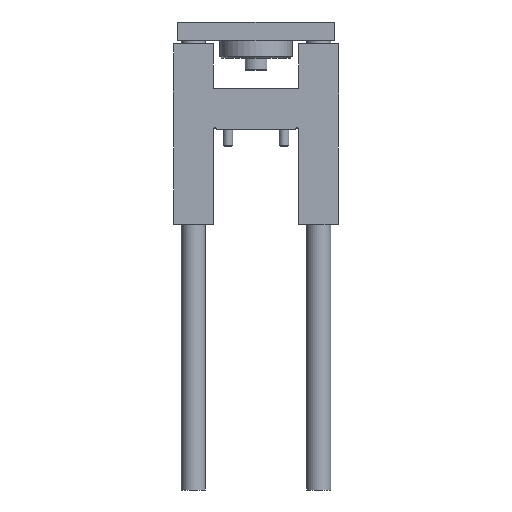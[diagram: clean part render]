
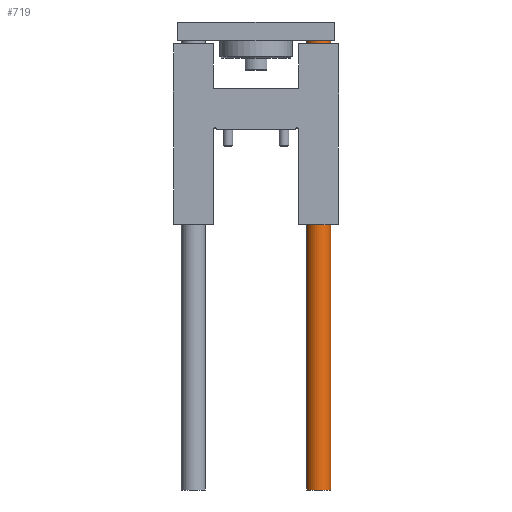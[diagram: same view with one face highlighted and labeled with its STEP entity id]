
A CAD part, front view. The second image highlights one B-rep face of the part: STEP entity #719.
In plain terms, the highlighted cylindrical face has radius 10 mm (diameter 20 mm), a partial arc.
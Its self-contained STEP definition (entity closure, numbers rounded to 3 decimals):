
#668 = CIRCLE ( 'NONE', #4868, 10. ) ;
#719 = ADVANCED_FACE ( 'NONE', ( #6842 ), #8482, .T. ) ;
#724 = CARTESIAN_POINT ( 'NONE',  ( 62., 0., 74. ) ) ;
#806 = LINE ( 'NONE', #4150, #10789 ) ;
#918 = DIRECTION ( 'NONE',  ( 0., 0., -1. ) ) ;
#1640 = DIRECTION ( 'NONE',  ( 1., 0., 0. ) ) ;
#1985 = ORIENTED_EDGE ( 'NONE', *, *, #6451, .T. ) ;
#2605 = EDGE_CURVE ( 'NONE', #8065, #8068, #668, .T. ) ;
#3357 = CARTESIAN_POINT ( 'NONE',  ( 42., 0., 74. ) ) ;
#3616 = CIRCLE ( 'NONE', #9046, 10. ) ;
#4150 = CARTESIAN_POINT ( 'NONE',  ( 42., 0., -299. ) ) ;
#4501 = DIRECTION ( 'NONE',  ( 0., 0., 1. ) ) ;
#4833 = EDGE_CURVE ( 'NONE', #5314, #8087, #3616, .T. ) ;
#4868 = AXIS2_PLACEMENT_3D ( 'NONE', #7025, #4501, #10379 ) ;
#4991 = CARTESIAN_POINT ( 'NONE',  ( 62., 0., -299. ) ) ;
#5314 = VERTEX_POINT ( 'NONE', #6066 ) ;
#5803 = CARTESIAN_POINT ( 'NONE',  ( 52., 0., -299. ) ) ;
#5964 = DIRECTION ( 'NONE',  ( 1., 0., 0. ) ) ;
#6066 = CARTESIAN_POINT ( 'NONE',  ( 42., 0., -299. ) ) ;
#6289 = EDGE_CURVE ( 'NONE', #8068, #8087, #6301, .T. ) ;
#6301 = LINE ( 'NONE', #8116, #10621 ) ;
#6451 = EDGE_CURVE ( 'NONE', #8065, #5314, #806, .T. ) ;
#6786 = CARTESIAN_POINT ( 'NONE',  ( 52., 0., -299. ) ) ;
#6842 = FACE_OUTER_BOUND ( 'NONE', #10711, .T. ) ;
#7025 = CARTESIAN_POINT ( 'NONE',  ( 52., 0., 74. ) ) ;
#7154 = ORIENTED_EDGE ( 'NONE', *, *, #2605, .F. ) ;
#7515 = DIRECTION ( 'NONE',  ( 0., 0., -1. ) ) ;
#7892 = ORIENTED_EDGE ( 'NONE', *, *, #6289, .F. ) ;
#8065 = VERTEX_POINT ( 'NONE', #3357 ) ;
#8068 = VERTEX_POINT ( 'NONE', #724 ) ;
#8087 = VERTEX_POINT ( 'NONE', #4991 ) ;
#8116 = CARTESIAN_POINT ( 'NONE',  ( 62., 0., -299. ) ) ;
#8482 = CYLINDRICAL_SURFACE ( 'NONE', #9722, 10. ) ;
#8939 = DIRECTION ( 'NONE',  ( 0., 0., -1. ) ) ;
#9046 = AXIS2_PLACEMENT_3D ( 'NONE', #5803, #9156, #1640 ) ;
#9156 = DIRECTION ( 'NONE',  ( 0., 0., 1. ) ) ;
#9722 = AXIS2_PLACEMENT_3D ( 'NONE', #6786, #918, #5964 ) ;
#10379 = DIRECTION ( 'NONE',  ( 1., 0., 0. ) ) ;
#10621 = VECTOR ( 'NONE', #8939, 1000. ) ;
#10711 = EDGE_LOOP ( 'NONE', ( #7154, #1985, #10790, #7892 ) ) ;
#10789 = VECTOR ( 'NONE', #7515, 1000. ) ;
#10790 = ORIENTED_EDGE ( 'NONE', *, *, #4833, .T. ) ;
